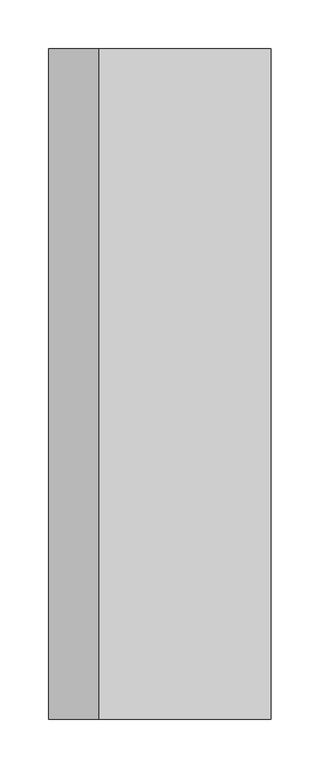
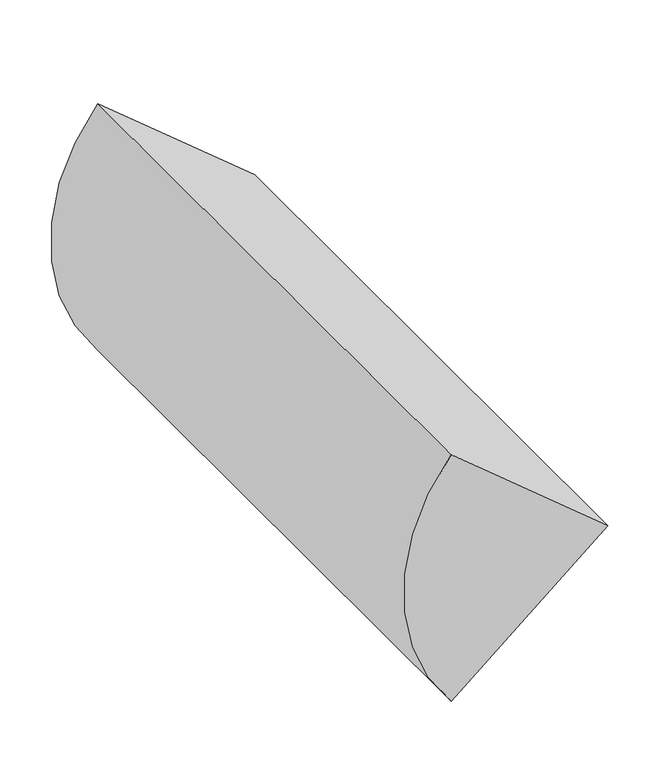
"""IFC4 building model written with IfcOpenShell, lengths in millimetres: proxy geometry, FOUNDATION^TABLE 1_ROUND-BASE DOOR."""

from ifc_helpers import new_model, si_unit, point, frame, origin, origin_2d, place, context, project, spatial, polyline, circle_curve, trimmed, segment, composite_curve, outline, extrude, source, transform, mapped, element, save


def generic_models_f1c866eb(model_context):
    return source(origin(), model_context, "Body", "SweptSolid", [
        extrude(outline(composite_curve([segment(polyline([(-146.05, -175.8617568), (0.0, 0.0), (146.05, -175.8617568)]), True, "CONTINUOUS"), segment(trimmed(circle_curve(origin_2d(), 228.6), [point((146.05, -175.8617568))], [point((-146.05, -175.8617568))], False, "CARTESIAN"), True, "CONTINUOUS")], self_intersect=False)), frame((0.0, -704.85, 0.0), z_axis=(0.0, 1.0, 0.0), x_axis=(0.0, 0.0, 1.0)), (0.0, 0.0, 1.0), 685.8),
    ])


if __name__ == "__main__":
    model = new_model("IFC4")
    model_context = context("Model", 3, world=origin())
    ifc_project = project(units=[si_unit("LENGTHUNIT", "METRE", prefix="MILLI")], contexts=[model_context])
    site = spatial("IfcSite", under=ifc_project)
    building = spatial("IfcBuilding", under=site)
    placement = place(None, origin())
    generic_models_shape = generic_models_f1c866eb(model_context)
    element("IfcBuildingElementProxy", 1, Name="FOUNDATION^TABLE 1_ROUND-BASE DOOR", ObjectType="FOUNDATION^TABLE 1_ROUND-BASE DOOR", at=placement, inside=building, context=model_context, shape_type="MappedRepresentation", body=[
        mapped(generic_models_shape, transform((0.0, 0.0, 0.0), x_axis=(1.0, 0.0, 0.0), y_axis=(0.0, 1.0, 0.0), z_axis=(0.0, 0.0, 1.0))),
    ])
    save(model, "model.ifc")
